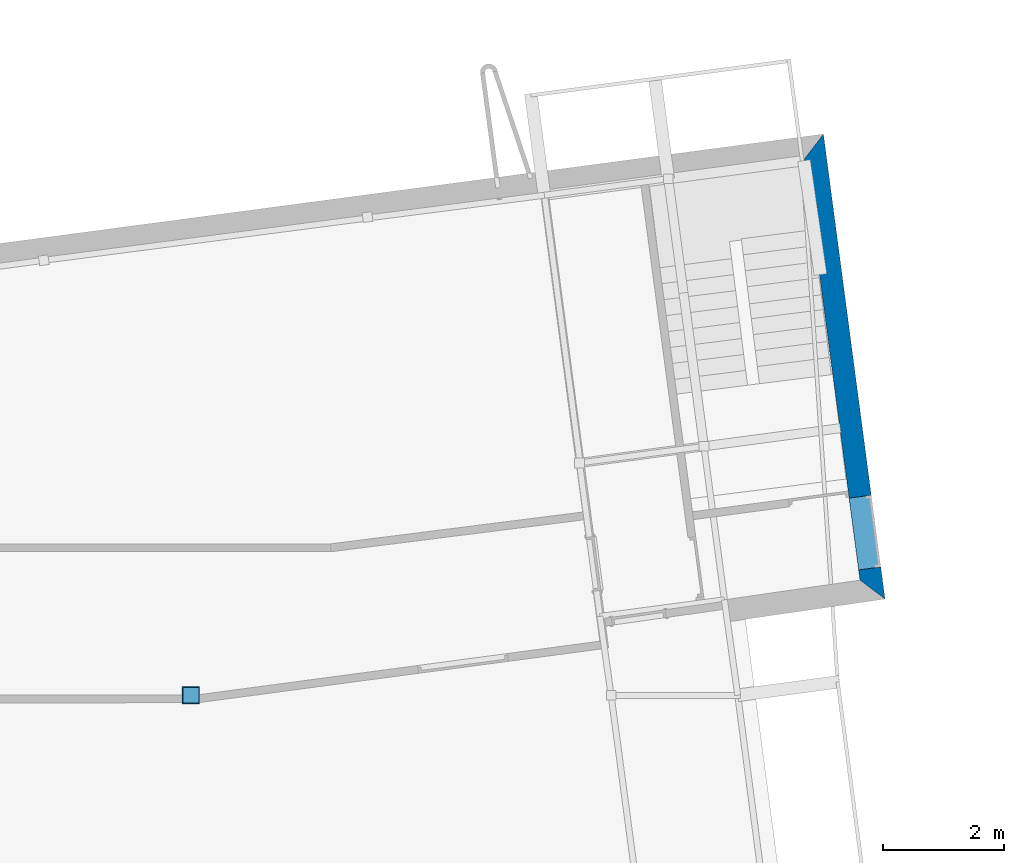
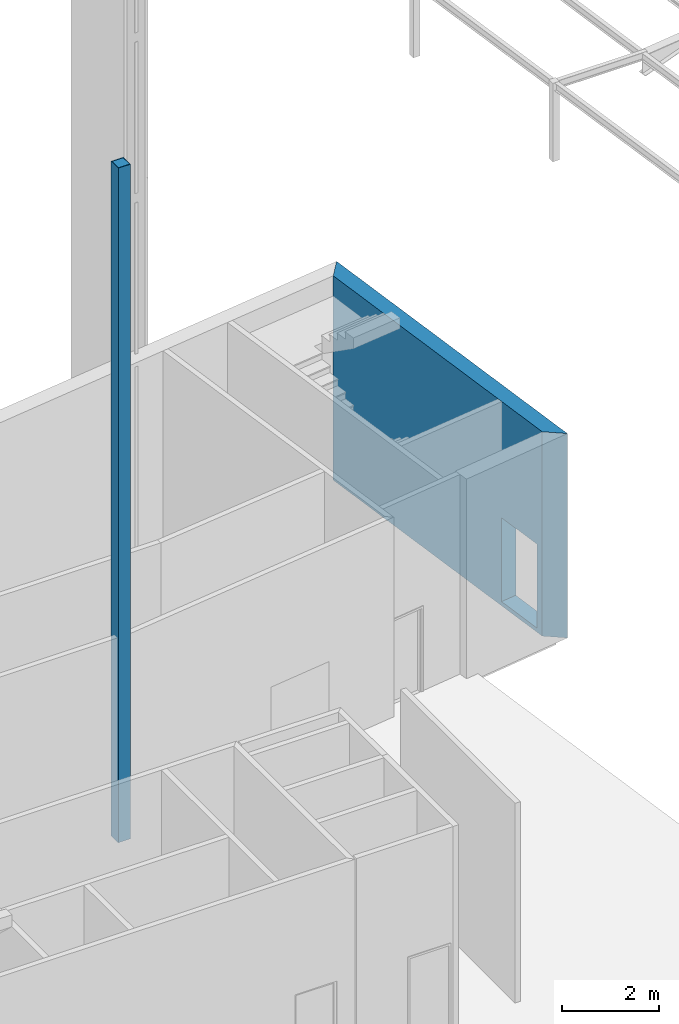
# One storey, part 29 of 40: 2 building element parts, 1 wall, 1 opening, 1 element without a shape of its own.
"""IFC2X3 building model written with IfcOpenShell, lengths in metres."""

from ifc_helpers import new_model, entity, si_unit, converted_unit, money_unit, direction, frame, origin_with_axes, origin_2d_with_axis, place, context, subcontext, project, spatial, polyline, rectangle, hollow_rectangle, outline, extrude, material, layer, layer_set, layer_usage, type_object, element, aggregate, save


model = new_model("IFC2X3")

# Units and contexts
model_context = context("Model", 3, precision=1e-05, world=origin_with_axes(), true_north=direction((0.0, 1.0)))
body_context = subcontext(model_context, "Body", "Model", "MODEL_VIEW")
ifc_project = project(units=[si_unit("LENGTHUNIT", "METRE"), si_unit("AREAUNIT", "SQUARE_METRE"), si_unit("VOLUMEUNIT", "CUBIC_METRE"), converted_unit("PLANEANGLEUNIT", "DEGREE", entity("IfcPlaneAngleMeasure", 0.0174532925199), si_unit("PLANEANGLEUNIT", "RADIAN"), dimensions=[0, 0, 0, 0, 0, 0, 0]), si_unit("SOLIDANGLEUNIT", "STERADIAN"), money_unit("EUR"), converted_unit("TIMEUNIT", "Year", entity("IfcTimeMeasure", 31556926.0), si_unit("TIMEUNIT", "SECOND"), dimensions=[0, 0, 0, 0, 0, 0, 0]), si_unit("MASSUNIT", "GRAM"), si_unit("THERMODYNAMICTEMPERATUREUNIT", "DEGREE_CELSIUS"), si_unit("LUMINOUSINTENSITYUNIT", "LUMEN")], contexts=[model_context])

# Site, building, storey
site_placement = place(None, origin_with_axes())
site = spatial("IfcSite", under=ifc_project, at=site_placement, Name="Undefined", CompositionType="ELEMENT")
building_placement = place(site_placement, origin_with_axes())
building = spatial("IfcBuilding", under=site, at=building_placement, Name="Undefined", CompositionType="ELEMENT")
storey_placement = place(building_placement, origin_with_axes())
storey = spatial("IfcBuildingStorey", under=building, at=storey_placement, Name="Rez de chauss\x8ee", CompositionType="ELEMENT", Elevation=0.0)

# Wall, opening
ifc_material_1 = material(Name="Finition ext - Cr\x8epis")
ifc_layer_1 = layer(ifc_material_1, 0.015, ventilated="UNKNOWN")
ifc_material_2 = material(Name="Isolation - Fibres de bois")
ifc_layer_2 = layer(ifc_material_2, 0.16, ventilated="UNKNOWN")
ifc_material_3 = material(Name="Struct. - B.A. banch\x8e")
ifc_layer_3 = layer(ifc_material_3, 0.18, ventilated="UNKNOWN")
ifc_material_4 = material(Name="Finition int - Enduit pl\x89tre")
ifc_layer_4 = layer(ifc_material_4, 0.015, ventilated="UNKNOWN")
ifc_layer_set = layer_set([ifc_layer_1, ifc_layer_2, ifc_layer_3, ifc_layer_4], Name="1.2-Mur ext: rev\x8et ext + isol ext + ma\x8donnerie + enduit")
ifc_layer_usage = layer_usage(ifc_layer_set, "AXIS2", "POSITIVE", 0.0)
wall_type = type_object("IfcWallType", Name="1.2-Mur ext: rev\x8et ext + isol ext + ma\x8donnerie + enduit 370", PredefinedType="NOTDEFINED")
wall_placement = place(storey_placement, frame((68.3507482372, 20.1953635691, 0.0), z_axis=(0.0, 0.0, 1.0), x_axis=(-0.131283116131, 0.991344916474, 0.0)))
wall = element("IfcWallStandardCase", 1, at=wall_placement, inside=storey, type_object=wall_type, material=ifc_layer_usage, Name="ExtWall_01", ObjectType="WALL", context=body_context, shape_type="SweptSolid", body=[
    extrude(outline(polyline([(0.0, 0.0), (7.77319047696, 0.0), (7.4030247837, 0.37), (0.365474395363, 0.37), (0.0, 0.0)])), origin_with_axes(), (0.0, 0.0, 1.0), 5.12),
])
opening_placement = place(wall_placement, frame((1.13701476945, 0.0, 0.105), z_axis=(0.0, 0.0, 1.0), x_axis=(1.0, 0.0, 0.0)))
element("IfcOpeningElement", 2, at=opening_placement, cuts=wall, Name="DOOR", context=body_context, shape_type="SweptSolid", body=[
    extrude(rectangle(XDim=1.2, YDim=2.1, at=origin_2d_with_axis()), frame((0.0, -0.37, 1.05), z_axis=(0.0, 1.0, 0.0), x_axis=(1.0, 0.0, 0.0)), (0.0, 0.0, 1.0), 0.37),
    extrude(rectangle(XDim=1.2, YDim=2.1, at=origin_2d_with_axis()), frame((0.0, 0.37, 1.05), z_axis=(0.0, -1.0, 0.0), x_axis=(1.0, 0.0, 0.0)), (0.0, 0.0, 1.0), 0.37),
])

# Column, building element parts
column_type = type_object("IfcColumnType", Name="HEB260", PredefinedType="NOTDEFINED")
column_placement = place(storey_placement, frame((56.8499999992, 18.6000000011, 0.0), z_axis=(0.0, 0.0, 1.0), x_axis=(-1.0, 0.0, 0.0)))
column = element("IfcColumn", 3, at=column_placement, inside=storey, type_object=column_type, Name="POTEAU", ObjectType="260*260")
building_element_part_1_placement = place(column_placement, origin_with_axes())
building_element_part_1 = element("IfcBuildingElementPart", 4, at=building_element_part_1_placement, material=ifc_material_4, context=body_context, shape_type="SweptSolid", body=[
    extrude(hollow_rectangle(XDim=0.29, YDim=0.29, WallThickness=0.015, at=origin_2d_with_axis()), origin_with_axes(), (0.0, 0.0, 1.0), 16.9),
])
ifc_material_5 = material(Name="M\x8etal - Acier")
building_element_part_2_placement = place(column_placement, origin_with_axes())
building_element_part_2 = element("IfcBuildingElementPart", 5, at=building_element_part_2_placement, material=ifc_material_5, context=body_context, shape_type="SweptSolid", body=[
    extrude(rectangle(XDim=0.26, YDim=0.26, at=origin_2d_with_axis()), origin_with_axes(), (0.0, 0.0, 1.0), 16.9),
])
aggregate(column, [building_element_part_1, building_element_part_2])

save(model, "model.ifc")
